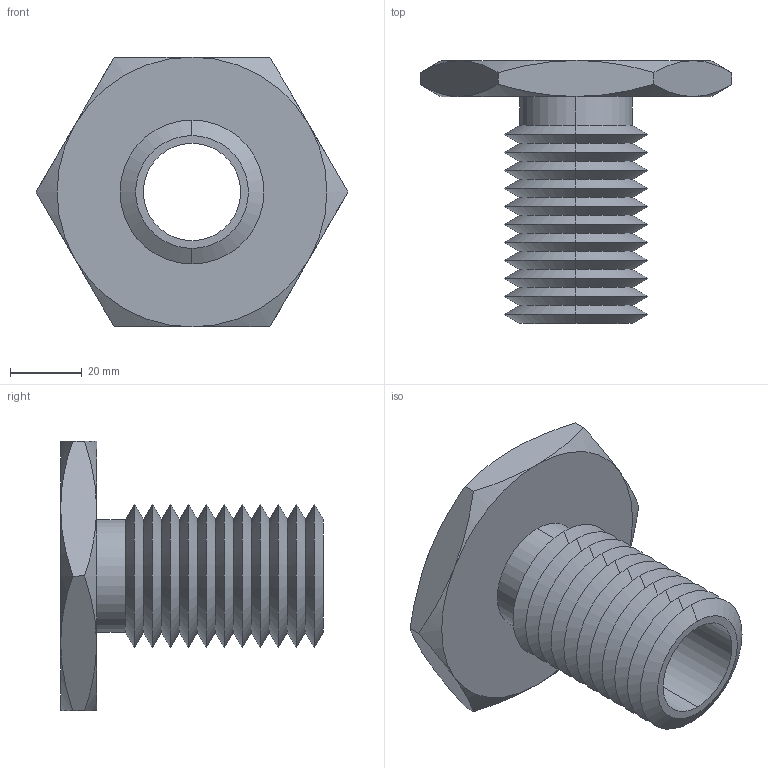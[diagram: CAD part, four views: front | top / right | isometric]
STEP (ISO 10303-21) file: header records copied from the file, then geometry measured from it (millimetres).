
FILE_DESCRIPTION (( 'STEP AP203' ), '1' );
FILE_NAME ('63302.W0042_M27x3.step', '2013-12-08T11:14:22', ( 'User' ), ( '' ), 'SwSTEP 2.0', 'SolidWorks 2009', '' );
FILE_SCHEMA (( 'CONFIG_CONTROL_DESIGN' ));
Length unit declared in the file: millimetre
Products named in the file (1): 63302.W0042_M27x3
Bounding box: 86.6 x 73 x 75 mm (x, y, z)
Volume: 66993.3 mm3; surface area: 29908.1 mm2
Topology: 1 solids, 1 shells, 71 faces, 146 edges, 78 vertices
Faces by surface type: cone 58, plane 9, cylinder 4
Entity records: 2039 total; most frequent: CARTESIAN_POINT 480, DIRECTION 332, ORIENTED_EDGE 292, EDGE_CURVE 146, AXIS2_PLACEMENT_3D 138, VERTEX_POINT 78, EDGE_LOOP 74, ADVANCED_FACE 71
